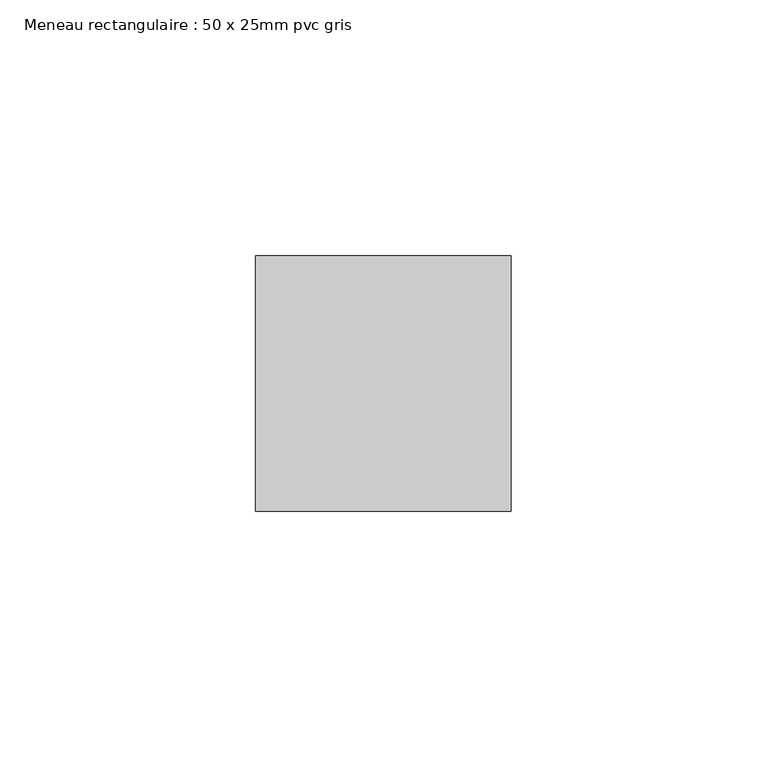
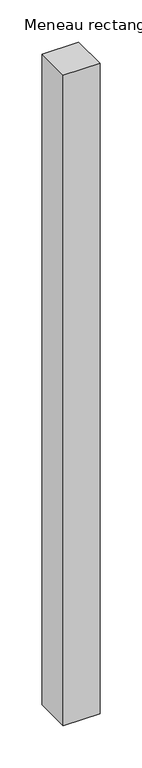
"""IFC4 building model written with IfcOpenShell, lengths in millimetres: member geometry, Meneau rectangulaire : 50 x 25mm pvc gris."""

from ifc_helpers import new_model, si_unit, frame, origin, place, context, project, spatial, polyline, outline, extrude, source, transform, mapped, element, save


def meneau_rectangulaire_50_x_25mm_pvc_gris_b9bb7fb2(model_context):
    return source(origin(), model_context, "Body", "SweptSolid", [
        extrude(outline(polyline([(0.0, 0.0), (0.0, -50.0), (-50.0, -50.0), (-50.0, 0.0), (0.0, 0.0)])), frame((0.0, 0.0, -938.475215), z_axis=(0.0, 0.0, 1.0), x_axis=(1.0, 0.0, 0.0)), (0.0, 0.0, 1.0), 938.475215),
    ])


if __name__ == "__main__":
    model = new_model("IFC4")
    model_context = context("Model", 3, world=origin())
    ifc_project = project(units=[si_unit("LENGTHUNIT", "METRE", prefix="MILLI")], contexts=[model_context])
    site = spatial("IfcSite", under=ifc_project)
    building = spatial("IfcBuilding", under=site)
    placement = place(None, origin())
    meneau_rectangulaire_50_x_25mm_pvc_gris_shape = meneau_rectangulaire_50_x_25mm_pvc_gris_b9bb7fb2(model_context)
    element("IfcMember", 1, ObjectType="Meneau rectangulaire : 50 x 25mm pvc gris", at=placement, inside=building, context=model_context, shape_type="MappedRepresentation", body=[
        mapped(meneau_rectangulaire_50_x_25mm_pvc_gris_shape, transform((0.0, 0.0, 0.0), x_axis=(1.0, 0.0, 0.0), y_axis=(0.0, 1.0, 0.0), z_axis=(0.0, 0.0, 1.0))),
    ])
    save(model, "model.ifc")
